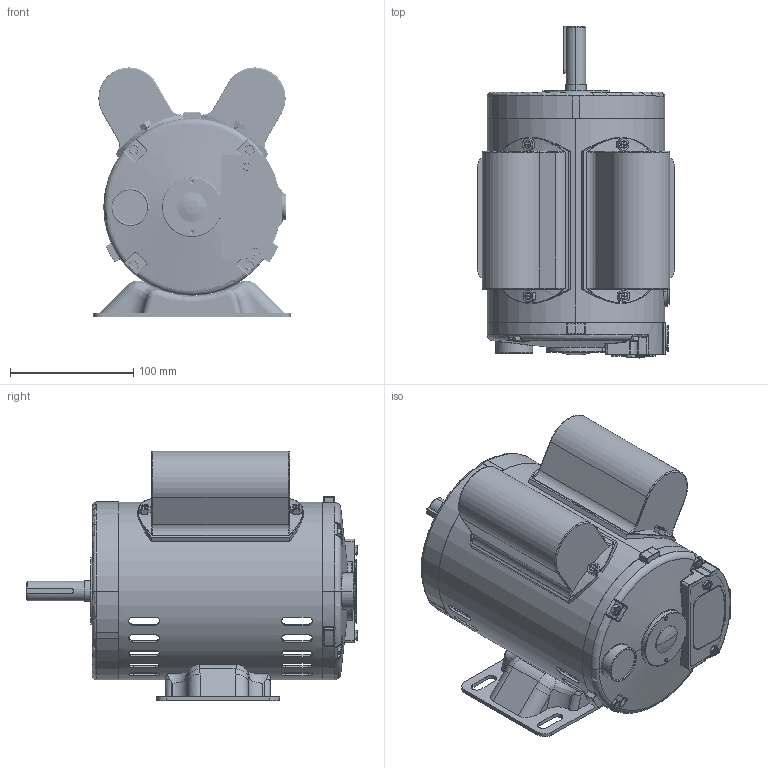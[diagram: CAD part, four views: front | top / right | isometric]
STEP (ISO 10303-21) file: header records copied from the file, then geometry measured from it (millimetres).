
FILE_DESCRIPTION (( 'STEP AP203' ), '1' );
FILE_NAME ('OPE 34-36-56(165).STEP', '2025-03-04T04:22:12', ( 'User' ), ( 'China' ), 'SwSTEP 2.0', 'SolidWorks 2019', '' );
FILE_SCHEMA (( 'CONFIG_CONTROL_DESIGN' ));
Length unit declared in the file: millimetre
Products named in the file (5): zt; qian; dij; lg; OPE 34-36-56(165)
Assembly tree (7 placements, depth 2):
  OPE 34-36-56(165)
    zt
    qian
    dij
    lg  x4
Bounding box: 160 x 269.35 x 202.21 mm (x, y, z)
Volume: 630209.8 mm3; surface area: 481475.6 mm2
Topology: 27 solids, 29 shells, 2491 faces, 6432 edges, 4002 vertices
Faces by surface type: cylinder 1177, plane 571, bspline 323, torus 304, cone 85, sphere 31
Entity records: 93603 total; most frequent: CARTESIAN_POINT 44897, ORIENTED_EDGE 10634, DIRECTION 9354, EDGE_CURVE 5317, AXIS2_PLACEMENT_3D 3703, VERTEX_POINT 3314, EDGE_LOOP 2291, ADVANCED_FACE 2125
